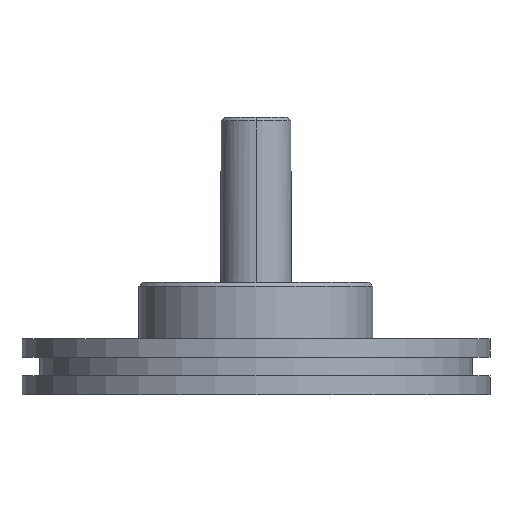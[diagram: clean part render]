
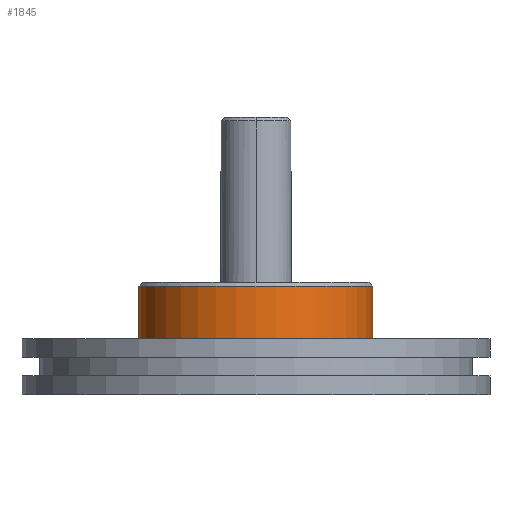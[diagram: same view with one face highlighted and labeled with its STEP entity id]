
A CAD part, front view. The second image highlights one B-rep face of the part: STEP entity #1845.
In plain terms, the highlighted cylindrical face has radius 15.875 mm (diameter 31.75 mm), a partial arc.
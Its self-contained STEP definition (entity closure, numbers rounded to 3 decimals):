
#185 = DIRECTION ( 'NONE',  ( 0., 0., -1. ) ) ;
#195 = ORIENTED_EDGE ( 'NONE', *, *, #5713, .T. ) ;
#366 = DIRECTION ( 'NONE',  ( 1., 0., 0. ) ) ;
#431 = AXIS2_PLACEMENT_3D ( 'NONE', #5763, #1762, #3681 ) ;
#609 = VERTEX_POINT ( 'NONE', #1320 ) ;
#749 = AXIS2_PLACEMENT_3D ( 'NONE', #1981, #1451, #366 ) ;
#1044 = ORIENTED_EDGE ( 'NONE', *, *, #4676, .F. ) ;
#1052 = CARTESIAN_POINT ( 'NONE',  ( -15.875, 0., 6.35 ) ) ;
#1315 = LINE ( 'NONE', #6274, #2284 ) ;
#1320 = CARTESIAN_POINT ( 'NONE',  ( 15.875, 0., 6.35 ) ) ;
#1417 = FACE_OUTER_BOUND ( 'NONE', #4977, .T. ) ;
#1451 = DIRECTION ( 'NONE',  ( 0., 0., -1. ) ) ;
#1694 = ORIENTED_EDGE ( 'NONE', *, *, #6103, .T. ) ;
#1762 = DIRECTION ( 'NONE',  ( 0., 0., 1. ) ) ;
#1845 = ADVANCED_FACE ( 'NONE', ( #1417 ), #4401, .T. ) ;
#1981 = CARTESIAN_POINT ( 'NONE',  ( 0., 0., 13.97 ) ) ;
#1983 = CIRCLE ( 'NONE', #431, 15.875 ) ;
#2088 = CARTESIAN_POINT ( 'NONE',  ( 15.875, 0., 13.47 ) ) ;
#2284 = VECTOR ( 'NONE', #5770, 1000. ) ;
#3192 = ORIENTED_EDGE ( 'NONE', *, *, #5919, .T. ) ;
#3681 = DIRECTION ( 'NONE',  ( -1., 0., 0. ) ) ;
#3862 = DIRECTION ( 'NONE',  ( 0., 0., -1. ) ) ;
#3962 = CARTESIAN_POINT ( 'NONE',  ( 15.875, 0., 13.97 ) ) ;
#4401 = CYLINDRICAL_SURFACE ( 'NONE', #749, 15.875 ) ;
#4676 = EDGE_CURVE ( 'NONE', #4844, #609, #5338, .T. ) ;
#4844 = VERTEX_POINT ( 'NONE', #2088 ) ;
#4888 = VECTOR ( 'NONE', #3862, 1000. ) ;
#4977 = EDGE_LOOP ( 'NONE', ( #3192, #195, #1694, #1044 ) ) ;
#5049 = DIRECTION ( 'NONE',  ( -1., 0., 0. ) ) ;
#5116 = CARTESIAN_POINT ( 'NONE',  ( -15.875, 0., 13.47 ) ) ;
#5338 = LINE ( 'NONE', #3962, #4888 ) ;
#5353 = VERTEX_POINT ( 'NONE', #1052 ) ;
#5713 = EDGE_CURVE ( 'NONE', #6076, #5353, #1315, .T. ) ;
#5763 = CARTESIAN_POINT ( 'NONE',  ( 0., 0., 6.35 ) ) ;
#5770 = DIRECTION ( 'NONE',  ( 0., 0., -1. ) ) ;
#5919 = EDGE_CURVE ( 'NONE', #4844, #6076, #6041, .T. ) ;
#6041 = CIRCLE ( 'NONE', #6361, 15.875 ) ;
#6076 = VERTEX_POINT ( 'NONE', #5116 ) ;
#6103 = EDGE_CURVE ( 'NONE', #5353, #609, #1983, .T. ) ;
#6274 = CARTESIAN_POINT ( 'NONE',  ( -15.875, 0., 13.97 ) ) ;
#6361 = AXIS2_PLACEMENT_3D ( 'NONE', #6406, #185, #5049 ) ;
#6406 = CARTESIAN_POINT ( 'NONE',  ( 0., 0., 13.47 ) ) ;
